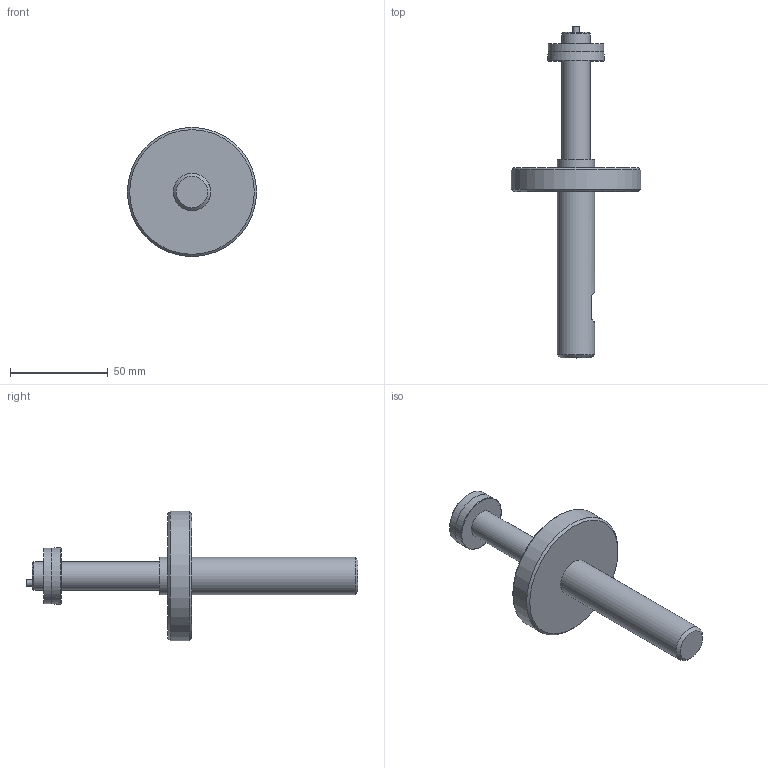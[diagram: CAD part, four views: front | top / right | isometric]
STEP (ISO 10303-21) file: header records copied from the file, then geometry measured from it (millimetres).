
FILE_DESCRIPTION (( 'STEP AP203' ), '1' );
FILE_NAME ('AF56-SIMPLE - AF56-14.50-29.00M.step', '2025-01-22T13:31:29', ( '' ), ( '' ), 'SwSTEP 2.0', 'SolidWorks 2024', '' );
FILE_SCHEMA (( 'CONFIG_CONTROL_DESIGN' ));
Length unit declared in the file: inch
Products named in the file (1): AF56-SIMPLE - AF56-14.50-29.00M
Bounding box: 66.04 x 169.8 x 66.04 mm (x, y, z)
Volume: 81585.2 mm3; surface area: 18706.4 mm2
Topology: 1 solids, 1 shells, 24 faces, 40 edges, 25 vertices
Faces by surface type: plane 11, cylinder 7, cone 5, torus 1
Full cylindrical faces by diameter (mm): 3.175 x1, 14.376 x2, 19.05 x2, 28.494 x1, 66.04 x1
Entity records: 569 total; most frequent: DIRECTION 94, CARTESIAN_POINT 81, ORIENTED_EDGE 52, AXIS2_PLACEMENT_3D 45, EDGE_LOOP 44, FACE_OUTER_BOUND 32, EDGE_CURVE 26, ADVANCED_FACE 24
